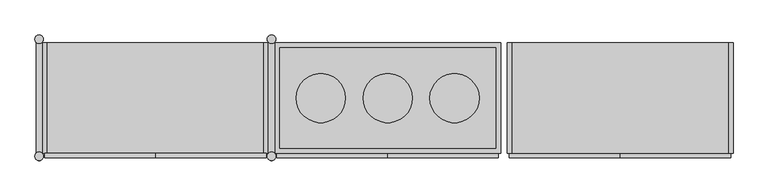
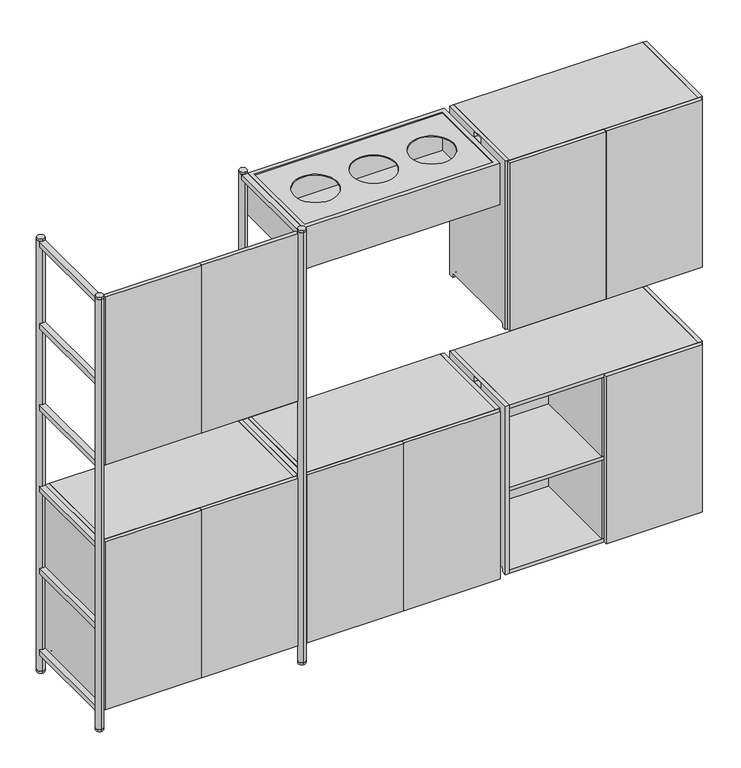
"""IFC4 building model written with IfcOpenShell, lengths in millimetres: furniture geometry, MAKR_TEMPLATE_900mmL1 : MAKR_TEMPLATE_900mmL 2."""

from ifc_helpers import new_model, si_unit, point, frame, frame_2d, origin, origin_with_axes, place, context, project, spatial, polyline, circle_curve, trimmed, segment, composite_curve, outline, extrude, source, transform, mapped, element, save
from ifc_brep_helpers import plane_surface, revolved_surface, advanced_brep


def furniture_e74ab299(model_context):
    return source(origin(), model_context, "Body", "SolidModel", [
        extrude(outline(polyline([(-2291.0, -221.4782814), (-1851.0, -221.4782814), (-1851.0, -239.4782814), (-2291.0, -239.4782814), (-2291.0, -221.4782814)])), frame((0.0, 0.0, 1276.0), z_axis=(0.0, 0.0, 1.0), x_axis=(1.0, 0.0, 0.0)), (0.0, 0.0, 1.0), 811.0),
        extrude(outline(polyline([(-1409.0, -221.4782814), (-1409.0, -239.4782814), (-1849.0, -239.4782814), (-1849.0, -221.4782814), (-1409.0, -221.4782814)])), frame((0.0, 0.0, 1276.0), z_axis=(0.0, 0.0, 1.0), x_axis=(1.0, 0.0, 0.0)), (0.0, 0.0, 1.0), 811.0),
        extrude(outline(composite_curve([segment(polyline([(-221.4782814, 904.0), (218.5217186, 904.0), (218.5217186, 89.0), (196.5217186, 89.0), (196.5217186, 106.0)]), True, "CONTINUOUS"), segment(trimmed(circle_curve(frame_2d((192.5217186, 106.0)), 4.0), [point((196.5217186, 106.0))], [point((192.5217186, 110.0))], True, "CARTESIAN"), True, "CONTINUOUS"), segment(polyline([(192.5217186, 110.0), (-195.4782814, 110.0)]), True, "CONTINUOUS"), segment(trimmed(circle_curve(frame_2d((-195.4782814, 106.0)), 4.0), [point((-195.4782814, 110.0))], [point((-199.4782814, 106.0))], True, "CARTESIAN"), True, "CONTINUOUS"), segment(polyline([(-199.4782814, 106.0), (-199.4782814, 89.0), (-221.4782814, 89.0), (-221.4782814, 904.0)]), True, "CONTINUOUS")], self_intersect=False), holes=[polyline([(-27.4782814, 899.0), (-27.4782814, 874.0), (24.5217186, 874.0), (24.5217186, 899.0), (-27.4782814, 899.0)])]), frame((-2300.0, 0.0, 0.0), z_axis=(1.0, 0.0, 0.0), x_axis=(0.0, 1.0, 0.0)), (0.0, 0.0, 1.0), 18.0),
        advanced_brep(
        [(-1418.0, 218.5217186, 107.0), (-2282.0, 218.5217186, 107.0), (-2282.0, 196.394702, 107.0), (-2276.1019215, 196.394702, 107.0), (-2276.1019215, -199.3512647, 107.0), (-2282.0, -199.3512647, 107.0), (-2282.0, -221.4782814, 107.0), (-1418.0, -221.4782814, 107.0), (-1418.0, 218.5217186, 89.0), (-1418.0, -221.4782814, 89.0), (-2282.0, -221.4782814, 89.0), (-2282.0, -199.4782814, 89.0), (-2276.1019215, -199.4782814, 89.0), (-2276.1019215, 196.5217186, 89.0), (-2282.0, 196.5217186, 89.0), (-2282.0, 218.5217186, 89.0), (-2282.0, 196.5217186, 106.0), (-2282.0, -199.4782814, 106.0), (-2276.1019215, 196.5217186, 106.0), (-2276.1019215, -199.4782814, 106.0)],
        [
            (0, 1),
            (1, 2),
            (2, 3),
            (3, 4),
            (4, 5),
            (5, 6),
            (6, 7),
            (7, 0),
            (8, 9),
            (9, 10),
            (10, 11),
            (11, 12),
            (12, 13),
            (13, 14),
            (14, 15),
            (15, 8),
            (0, 8),
            (15, 1),
            (14, 16),
            (16, 2, circle_curve(frame((-2282.0, 192.5217186, 106.0), z_axis=(1.0, 0.0, 0.0), x_axis=(0.0, 1.0, 0.0)), 4.0)),
            (10, 6),
            (5, 17, circle_curve(frame((-2282.0, -195.4782814, 106.0), z_axis=(1.0, 0.0, 0.0), x_axis=(0.0, 1.0, 0.0)), 4.0)),
            (17, 11),
            (9, 7),
            (18, 13),
            (12, 19),
            (19, 4, circle_curve(frame((-2276.1019215, -195.4782814, 106.0), z_axis=(-1.0, 0.0, 0.0), x_axis=(0.0, 1.0, 0.0)), 4.0)),
            (3, 18, circle_curve(frame((-2276.1019215, 192.5217186, 106.0), z_axis=(-1.0, 0.0, 0.0), x_axis=(0.0, 1.0, 0.0)), 4.0)),
            (19, 17),
            (18, 16),
        ],
        [
            plane_surface(frame((-2282.0, 218.5217186, 107.0), z_axis=(0.0, 0.0, 1.0), x_axis=(-1.0, 0.0, 0.0))),
            plane_surface(frame((-2282.0, 218.5217186, 89.0), z_axis=(0.0, 0.0, -1.0), x_axis=(1.0, 0.0, 0.0))),
            plane_surface(frame((-1418.0, 218.5217186, 107.0), z_axis=(0.0, 1.0, 0.0), x_axis=(0.0, 0.0, -1.0))),
            plane_surface(frame((-2282.0, 218.5217186, 107.0), z_axis=(-1.0, 0.0, 0.0), x_axis=(0.0, 0.0, -1.0))),
            plane_surface(frame((-2282.0, -221.4782814, 107.0), z_axis=(0.0, -1.0, 0.0), x_axis=(0.0, 0.0, -1.0))),
            plane_surface(frame((-1418.0, -221.4782814, 107.0), z_axis=(1.0, 0.0, 0.0), x_axis=(0.0, 0.0, -1.0))),
            plane_surface(frame((-2276.1019215, -191.4782814, 106.0), z_axis=(-1.0, 0.0, 0.0), x_axis=(0.0, 0.0, 1.0))),
            revolved_surface(polyline([(-2276.1019215, -191.4782814, 106.0), (-2282.0, -191.4782814, 106.0)]), (-2306.0458228, -195.4782814, 106.0), (1.0, 0.0, 0.0)),
            plane_surface(frame((-2276.1019215, -199.4782814, 106.0), z_axis=(0.0, 1.0, 0.0), x_axis=(-1.0, 0.0, 0.0))),
            plane_surface(frame((-2276.1019215, 196.5217186, 89.0), z_axis=(0.0, -1.0, 0.0), x_axis=(-1.0, 0.0, 0.0))),
            revolved_surface(polyline([(-2276.1019215, 196.5217186, 106.0), (-2282.0, 196.5217186, 106.0)]), (-2306.0458228, 192.5217186, 106.0), (1.0, 0.0, 0.0)),
        ],
        [
            (0, [[1, 2, 3, 4, 5, 6, 7, 8]]),
            (1, [[9, 10, 11, 12, 13, 14, 15, 16]]),
            (2, [[-1, 17, -16, 18]]),
            (3, [[-18, -15, 19, 20, -2]]),
            (3, [[21, -6, 22, 23, -11]]),
            (4, [[-7, -21, -10, 24]]),
            (5, [[-8, -24, -9, -17]]),
            (6, [[25, -13, 26, 27, -4, 28]]),
            (7, [[-27, 29, -22, -5]]),
            (8, [[-26, -12, -23, -29]]),
            (9, [[-25, 30, -19, -14]]),
            (10, [[-28, -3, -20, -30]]),
        ],
    ),
        extrude(outline(composite_curve([segment(polyline([(-221.4782814, 904.0), (218.5217186, 904.0), (218.5217186, 89.0), (196.5217186, 89.0), (196.5217186, 106.0)]), True, "CONTINUOUS"), segment(trimmed(circle_curve(frame_2d((192.5217186, 106.0)), 4.0), [point((196.5217186, 106.0))], [point((192.5217186, 110.0))], True, "CARTESIAN"), True, "CONTINUOUS"), segment(polyline([(192.5217186, 110.0), (-195.4782814, 110.0)]), True, "CONTINUOUS"), segment(trimmed(circle_curve(frame_2d((-195.4782814, 106.0)), 4.0), [point((-195.4782814, 110.0))], [point((-199.4782814, 106.0))], True, "CARTESIAN"), True, "CONTINUOUS"), segment(polyline([(-199.4782814, 106.0), (-199.4782814, 89.0), (-221.4782814, 89.0), (-221.4782814, 904.0)]), True, "CONTINUOUS")], self_intersect=False), holes=[polyline([(-27.4782814, 899.0), (-27.4782814, 874.0), (24.5217186, 874.0), (24.5217186, 899.0), (-27.4782814, 899.0)])]), frame((-1418.0, 0.0, 0.0), z_axis=(1.0, 0.0, 0.0), x_axis=(0.0, 1.0, 0.0)), (0.0, 0.0, 1.0), 18.0),
        extrude(outline(polyline([(-1418.0, 218.5217186), (-1418.0, 200.5217186), (-2282.0, 200.5217186), (-2282.0, 218.5217186), (-1418.0, 218.5217186)])), frame((0.0, 0.0, 107.0), z_axis=(0.0, 0.0, 1.0), x_axis=(1.0, 0.0, 0.0)), (0.0, 0.0, 1.0), 779.0),
        extrude(outline(polyline([(-1418.0, 200.5217186), (-1418.0, -221.4782814), (-2282.0, -221.4782814), (-2282.0, 200.5217186), (-1418.0, 200.5217186)])), frame((0.0, 0.0, 487.5), z_axis=(0.0, 0.0, 1.0), x_axis=(1.0, 0.0, 0.0)), (0.0, 0.0, 1.0), 18.0),
        extrude(outline(polyline([(-1418.0, 218.5217186), (-1418.0, -221.4782814), (-2282.0, -221.4782814), (-2282.0, 218.5217186), (-1418.0, 218.5217186)])), frame((0.0, 0.0, 886.0), z_axis=(0.0, 0.0, 1.0), x_axis=(1.0, 0.0, 0.0)), (0.0, 0.0, 1.0), 18.0),
        extrude(outline(polyline([(-1841.0, 200.5217186), (-1841.0, -221.4782814), (-1859.0, -221.4782814), (-1859.0, 200.5217186), (-1841.0, 200.5217186)])), frame((0.0, 0.0, 107.0), z_axis=(0.0, 0.0, 1.0), x_axis=(1.0, 0.0, 0.0)), (0.0, 0.0, 1.0), 779.0),
        extrude(outline(polyline([(-1409.0, -221.4782814), (-1409.0, -239.4782814), (-1849.0, -239.4782814), (-1849.0, -221.4782814), (-1409.0, -221.4782814)])), frame((0.0, 0.0, 91.0), z_axis=(0.0, 0.0, 1.0), x_axis=(1.0, 0.0, 0.0)), (0.0, 0.0, 1.0), 811.0),
        extrude(outline(polyline([(-2291.0, -221.4782814), (-1851.0, -221.4782814), (-1851.0, -239.4782814), (-2291.0, -239.4782814), (-2291.0, -221.4782814)])), frame((0.0, 0.0, 91.0), z_axis=(0.0, 0.0, 1.0), x_axis=(1.0, 0.0, 0.0)), (0.0, 0.0, 1.0), 811.0),
        extrude(outline(composite_curve([segment(polyline([(-221.4782814, 904.0), (218.5217186, 904.0), (218.5217186, 89.0), (196.5217186, 89.0), (196.5217186, 106.0)]), True, "CONTINUOUS"), segment(trimmed(circle_curve(frame_2d((192.5217186, 106.0)), 4.0), [point((196.5217186, 106.0))], [point((192.5217186, 110.0))], True, "CARTESIAN"), True, "CONTINUOUS"), segment(polyline([(192.5217186, 110.0), (-195.4782814, 110.0)]), True, "CONTINUOUS"), segment(trimmed(circle_curve(frame_2d((-195.4782814, 106.0)), 4.0), [point((-195.4782814, 110.0))], [point((-199.4782814, 106.0))], True, "CARTESIAN"), True, "CONTINUOUS"), segment(polyline([(-199.4782814, 106.0), (-199.4782814, 89.0), (-221.4782814, 89.0), (-221.4782814, 904.0)]), True, "CONTINUOUS")], self_intersect=False), holes=[polyline([(-27.4782814, 899.0), (-27.4782814, 874.0), (24.5217186, 874.0), (24.5217186, 899.0), (-27.4782814, 899.0)])]), frame((-1375.0, 0.0, 0.0), z_axis=(1.0, 0.0, 0.0), x_axis=(0.0, 1.0, 0.0)), (0.0, 0.0, 1.0), 18.0),
        advanced_brep(
        [(-493.0, 218.5217186, 107.0), (-1357.0, 218.5217186, 107.0), (-1357.0, 196.394702, 107.0), (-1351.1019215, 196.394702, 107.0), (-1351.1019215, -199.3512647, 107.0), (-1357.0, -199.3512647, 107.0), (-1357.0, -221.4782814, 107.0), (-493.0, -221.4782814, 107.0), (-493.0, 218.5217186, 89.0), (-493.0, -221.4782814, 89.0), (-1357.0, -221.4782814, 89.0), (-1357.0, -199.4782814, 89.0), (-1351.1019215, -199.4782814, 89.0), (-1351.1019215, 196.5217186, 89.0), (-1357.0, 196.5217186, 89.0), (-1357.0, 218.5217186, 89.0), (-1357.0, 196.5217186, 106.0), (-1357.0, -199.4782814, 106.0), (-1351.1019215, 196.5217186, 106.0), (-1351.1019215, -199.4782814, 106.0)],
        [
            (0, 1),
            (1, 2),
            (2, 3),
            (3, 4),
            (4, 5),
            (5, 6),
            (6, 7),
            (7, 0),
            (8, 9),
            (9, 10),
            (10, 11),
            (11, 12),
            (12, 13),
            (13, 14),
            (14, 15),
            (15, 8),
            (0, 8),
            (15, 1),
            (14, 16),
            (16, 2, circle_curve(frame((-1357.0, 192.5217186, 106.0), z_axis=(1.0, 0.0, 0.0), x_axis=(0.0, 1.0, 0.0)), 4.0)),
            (10, 6),
            (5, 17, circle_curve(frame((-1357.0, -195.4782814, 106.0), z_axis=(1.0, 0.0, 0.0), x_axis=(0.0, 1.0, 0.0)), 4.0)),
            (17, 11),
            (9, 7),
            (18, 13),
            (12, 19),
            (19, 4, circle_curve(frame((-1351.1019215, -195.4782814, 106.0), z_axis=(-1.0, 0.0, 0.0), x_axis=(0.0, 1.0, 0.0)), 4.0)),
            (3, 18, circle_curve(frame((-1351.1019215, 192.5217186, 106.0), z_axis=(-1.0, 0.0, 0.0), x_axis=(0.0, 1.0, 0.0)), 4.0)),
            (19, 17),
            (18, 16),
        ],
        [
            plane_surface(frame((-1357.0, 218.5217186, 107.0), z_axis=(0.0, 0.0, 1.0), x_axis=(-1.0, 0.0, 0.0))),
            plane_surface(frame((-1357.0, 218.5217186, 89.0), z_axis=(0.0, 0.0, -1.0), x_axis=(1.0, 0.0, 0.0))),
            plane_surface(frame((-493.0, 218.5217186, 107.0), z_axis=(0.0, 1.0, 0.0), x_axis=(0.0, 0.0, -1.0))),
            plane_surface(frame((-1357.0, 218.5217186, 107.0), z_axis=(-1.0, 0.0, 0.0), x_axis=(0.0, 0.0, -1.0))),
            plane_surface(frame((-1357.0, -221.4782814, 107.0), z_axis=(0.0, -1.0, 0.0), x_axis=(0.0, 0.0, -1.0))),
            plane_surface(frame((-493.0, -221.4782814, 107.0), z_axis=(1.0, 0.0, 0.0), x_axis=(0.0, 0.0, -1.0))),
            plane_surface(frame((-1351.1019215, -191.4782814, 106.0), z_axis=(-1.0, 0.0, 0.0), x_axis=(0.0, 0.0, 1.0))),
            revolved_surface(polyline([(-1351.1019215, -191.4782814, 106.0), (-1357.0, -191.4782814, 106.0)]), (-1381.0458228, -195.4782814, 106.0), (1.0, 0.0, 0.0)),
            plane_surface(frame((-1351.1019215, -199.4782814, 106.0), z_axis=(0.0, 1.0, 0.0), x_axis=(-1.0, 0.0, 0.0))),
            plane_surface(frame((-1351.1019215, 196.5217186, 89.0), z_axis=(0.0, -1.0, 0.0), x_axis=(-1.0, 0.0, 0.0))),
            revolved_surface(polyline([(-1351.1019215, 196.5217186, 106.0), (-1357.0, 196.5217186, 106.0)]), (-1381.0458228, 192.5217186, 106.0), (1.0, 0.0, 0.0)),
        ],
        [
            (0, [[1, 2, 3, 4, 5, 6, 7, 8]]),
            (1, [[9, 10, 11, 12, 13, 14, 15, 16]]),
            (2, [[-1, 17, -16, 18]]),
            (3, [[-18, -15, 19, 20, -2]]),
            (3, [[21, -6, 22, 23, -11]]),
            (4, [[-7, -21, -10, 24]]),
            (5, [[-8, -24, -9, -17]]),
            (6, [[25, -13, 26, 27, -4, 28]]),
            (7, [[-27, 29, -22, -5]]),
            (8, [[-26, -12, -23, -29]]),
            (9, [[-25, 30, -19, -14]]),
            (10, [[-28, -3, -20, -30]]),
        ],
    ),
        extrude(outline(composite_curve([segment(polyline([(-221.4782814, 904.0), (218.5217186, 904.0), (218.5217186, 89.0), (196.5217186, 89.0), (196.5217186, 106.0)]), True, "CONTINUOUS"), segment(trimmed(circle_curve(frame_2d((192.5217186, 106.0)), 4.0), [point((196.5217186, 106.0))], [point((192.5217186, 110.0))], True, "CARTESIAN"), True, "CONTINUOUS"), segment(polyline([(192.5217186, 110.0), (-195.4782814, 110.0)]), True, "CONTINUOUS"), segment(trimmed(circle_curve(frame_2d((-195.4782814, 106.0)), 4.0), [point((-195.4782814, 110.0))], [point((-199.4782814, 106.0))], True, "CARTESIAN"), True, "CONTINUOUS"), segment(polyline([(-199.4782814, 106.0), (-199.4782814, 89.0), (-221.4782814, 89.0), (-221.4782814, 904.0)]), True, "CONTINUOUS")], self_intersect=False), holes=[polyline([(-27.4782814, 899.0), (-27.4782814, 874.0), (24.5217186, 874.0), (24.5217186, 899.0), (-27.4782814, 899.0)])]), frame((-493.0, 0.0, 0.0), z_axis=(1.0, 0.0, 0.0), x_axis=(0.0, 1.0, 0.0)), (0.0, 0.0, 1.0), 18.0),
        extrude(outline(polyline([(-493.0, 218.5217186), (-493.0, 200.5217186), (-1357.0, 200.5217186), (-1357.0, 218.5217186), (-493.0, 218.5217186)])), frame((0.0, 0.0, 107.0), z_axis=(0.0, 0.0, 1.0), x_axis=(1.0, 0.0, 0.0)), (0.0, 0.0, 1.0), 779.0),
        extrude(outline(polyline([(-493.0, 200.5217186), (-493.0, -221.4782814), (-1357.0, -221.4782814), (-1357.0, 200.5217186), (-493.0, 200.5217186)])), frame((0.0, 0.0, 487.5), z_axis=(0.0, 0.0, 1.0), x_axis=(1.0, 0.0, 0.0)), (0.0, 0.0, 1.0), 18.0),
        extrude(outline(polyline([(-493.0, 218.5217186), (-493.0, -221.4782814), (-1357.0, -221.4782814), (-1357.0, 218.5217186), (-493.0, 218.5217186)])), frame((0.0, 0.0, 886.0), z_axis=(0.0, 0.0, 1.0), x_axis=(1.0, 0.0, 0.0)), (0.0, 0.0, 1.0), 18.0),
        extrude(outline(polyline([(-916.0, 200.5217186), (-916.0, -221.4782814), (-934.0, -221.4782814), (-934.0, 200.5217186), (-916.0, 200.5217186)])), frame((0.0, 0.0, 107.0), z_axis=(0.0, 0.0, 1.0), x_axis=(1.0, 0.0, 0.0)), (0.0, 0.0, 1.0), 779.0),
        extrude(outline(polyline([(-484.0, -221.4782814), (-484.0, -239.4782814), (-924.0, -239.4782814), (-924.0, -221.4782814), (-484.0, -221.4782814)])), frame((0.0, 0.0, 91.0), z_axis=(0.0, 0.0, 1.0), x_axis=(1.0, 0.0, 0.0)), (0.0, 0.0, 1.0), 811.0),
        extrude(outline(polyline([(-1366.0, -221.4782814), (-926.0, -221.4782814), (-926.0, -239.4782814), (-1366.0, -239.4782814), (-1366.0, -221.4782814)])), frame((0.0, 0.0, 91.0), z_axis=(0.0, 0.0, 1.0), x_axis=(1.0, 0.0, 0.0)), (0.0, 0.0, 1.0), 811.0),
        extrude(outline(composite_curve([segment(trimmed(circle_curve(frame_2d((-2312.5, 233.0)), 17.0), [point((-2325.0, 221.4782814))], [point((-2300.0, 221.4782814))], True, "CARTESIAN"), True, "CONTINUOUS"), segment(polyline([(-2300.0, 221.4782814), (-2300.0, -221.4782814)]), True, "CONTINUOUS"), segment(trimmed(circle_curve(frame_2d((-2312.5, -233.0)), 17.0), [point((-2300.0, -221.4782814))], [point((-2325.0, -221.4782814))], True, "CARTESIAN"), True, "CONTINUOUS"), segment(polyline([(-2325.0, -221.4782814), (-2325.0, 221.4782814)]), True, "CONTINUOUS")], self_intersect=False)), frame((0.0, 0.0, 2064.0), z_axis=(0.0, 0.0, 1.0), x_axis=(1.0, 0.0, 0.0)), (0.0, 0.0, 1.0), 25.0),
        extrude(outline(composite_curve([segment(trimmed(circle_curve(frame_2d((-2312.5, 233.0)), 17.0), [point((-2325.0, 221.4782814))], [point((-2300.0, 221.4782814))], True, "CARTESIAN"), True, "CONTINUOUS"), segment(polyline([(-2300.0, 221.4782814), (-2300.0, -221.4782814)]), True, "CONTINUOUS"), segment(trimmed(circle_curve(frame_2d((-2312.5, -233.0)), 17.0), [point((-2300.0, -221.4782814))], [point((-2325.0, -221.4782814))], True, "CARTESIAN"), True, "CONTINUOUS"), segment(polyline([(-2325.0, -221.4782814), (-2325.0, 221.4782814)]), True, "CONTINUOUS")], self_intersect=False)), frame((0.0, 0.0, 1669.0), z_axis=(0.0, 0.0, 1.0), x_axis=(1.0, 0.0, 0.0)), (0.0, 0.0, 1.0), 25.0),
        extrude(outline(composite_curve([segment(trimmed(circle_curve(frame_2d((-2312.5, 233.0)), 17.0), [point((-2325.0, 221.4782814))], [point((-2300.0, 221.4782814))], True, "CARTESIAN"), True, "CONTINUOUS"), segment(polyline([(-2300.0, 221.4782814), (-2300.0, -221.4782814)]), True, "CONTINUOUS"), segment(trimmed(circle_curve(frame_2d((-2312.5, -233.0)), 17.0), [point((-2300.0, -221.4782814))], [point((-2325.0, -221.4782814))], True, "CARTESIAN"), True, "CONTINUOUS"), segment(polyline([(-2325.0, -221.4782814), (-2325.0, 221.4782814)]), True, "CONTINUOUS")], self_intersect=False)), frame((0.0, 0.0, 1274.0), z_axis=(0.0, 0.0, 1.0), x_axis=(1.0, 0.0, 0.0)), (0.0, 0.0, 1.0), 25.0),
        extrude(outline(composite_curve([segment(trimmed(circle_curve(frame_2d((-2312.5, 233.0)), 17.0), [point((-2325.0, 221.4782814))], [point((-2300.0, 221.4782814))], True, "CARTESIAN"), True, "CONTINUOUS"), segment(polyline([(-2300.0, 221.4782814), (-2300.0, -221.4782814)]), True, "CONTINUOUS"), segment(trimmed(circle_curve(frame_2d((-2312.5, -233.0)), 17.0), [point((-2300.0, -221.4782814))], [point((-2325.0, -221.4782814))], True, "CARTESIAN"), True, "CONTINUOUS"), segment(polyline([(-2325.0, -221.4782814), (-2325.0, 221.4782814)]), True, "CONTINUOUS")], self_intersect=False)), frame((0.0, 0.0, 879.0), z_axis=(0.0, 0.0, 1.0), x_axis=(1.0, 0.0, 0.0)), (0.0, 0.0, 1.0), 25.0),
        extrude(outline(composite_curve([segment(trimmed(circle_curve(frame_2d((-2312.5, 233.0)), 17.0), [point((-2325.0, 221.4782814))], [point((-2300.0, 221.4782814))], True, "CARTESIAN"), True, "CONTINUOUS"), segment(polyline([(-2300.0, 221.4782814), (-2300.0, -221.4782814)]), True, "CONTINUOUS"), segment(trimmed(circle_curve(frame_2d((-2312.5, -233.0)), 17.0), [point((-2300.0, -221.4782814))], [point((-2325.0, -221.4782814))], True, "CARTESIAN"), True, "CONTINUOUS"), segment(polyline([(-2325.0, -221.4782814), (-2325.0, 221.4782814)]), True, "CONTINUOUS")], self_intersect=False)), frame((0.0, 0.0, 484.0), z_axis=(0.0, 0.0, 1.0), x_axis=(1.0, 0.0, 0.0)), (0.0, 0.0, 1.0), 25.0),
        extrude(outline(composite_curve([segment(trimmed(circle_curve(frame_2d((-2312.5, 233.0)), 17.0), [point((-2325.0, 221.4782814))], [point((-2300.0, 221.4782814))], True, "CARTESIAN"), True, "CONTINUOUS"), segment(polyline([(-2300.0, 221.4782814), (-2300.0, -221.4782814)]), True, "CONTINUOUS"), segment(trimmed(circle_curve(frame_2d((-2312.5, -233.0)), 17.0), [point((-2300.0, -221.4782814))], [point((-2325.0, -221.4782814))], True, "CARTESIAN"), True, "CONTINUOUS"), segment(polyline([(-2325.0, -221.4782814), (-2325.0, 221.4782814)]), True, "CONTINUOUS")], self_intersect=False)), frame((0.0, 0.0, 89.0), z_axis=(0.0, 0.0, 1.0), x_axis=(1.0, 0.0, 0.0)), (0.0, 0.0, 1.0), 25.0),
        extrude(outline(composite_curve([segment(trimmed(circle_curve(frame_2d((-2312.5, -233.0)), 17.0), [point((-2312.5, -216.0))], [point((-2312.5, -250.0))], False, "CARTESIAN"), True, "CONTINUOUS"), segment(trimmed(circle_curve(frame_2d((-2312.5, -233.0)), 17.0), [point((-2312.5, -250.0))], [point((-2312.5, -216.0))], False, "CARTESIAN"), True, "CONTINUOUS")], self_intersect=False)), frame((0.0, 0.0, 2091.0), z_axis=(0.0, 0.0, 1.0), x_axis=(1.0, 0.0, 0.0)), (0.0, 0.0, 1.0), 9.0),
        extrude(outline(composite_curve([segment(trimmed(circle_curve(frame_2d((-2312.5, -233.0)), 17.0), [point((-2312.5, -216.0))], [point((-2312.5, -250.0))], False, "CARTESIAN"), True, "CONTINUOUS"), segment(trimmed(circle_curve(frame_2d((-2312.5, -233.0)), 17.0), [point((-2312.5, -250.0))], [point((-2312.5, -216.0))], False, "CARTESIAN"), True, "CONTINUOUS")], self_intersect=False)), origin_with_axes(), (0.0, 0.0, 1.0), 9.0),
        extrude(outline(composite_curve([segment(trimmed(circle_curve(frame_2d((-2312.5, -233.0)), 17.0), [point((-2312.5, -216.0))], [point((-2312.5, -250.0))], False, "CARTESIAN"), True, "CONTINUOUS"), segment(trimmed(circle_curve(frame_2d((-2312.5, -233.0)), 17.0), [point((-2312.5, -250.0))], [point((-2312.5, -216.0))], False, "CARTESIAN"), True, "CONTINUOUS")], self_intersect=False)), frame((0.0, 0.0, 9.0), z_axis=(0.0, 0.0, 1.0), x_axis=(1.0, 0.0, 0.0)), (0.0, 0.0, 1.0), 2082.0),
        extrude(outline(composite_curve([segment(trimmed(circle_curve(frame_2d((-2312.5, 233.0)), 17.0), [point((-2312.5, 216.0))], [point((-2312.5, 250.0))], False, "CARTESIAN"), True, "CONTINUOUS"), segment(trimmed(circle_curve(frame_2d((-2312.5, 233.0)), 17.0), [point((-2312.5, 250.0))], [point((-2312.5, 216.0))], False, "CARTESIAN"), True, "CONTINUOUS")], self_intersect=False)), frame((0.0, 0.0, 2091.0), z_axis=(0.0, 0.0, 1.0), x_axis=(1.0, 0.0, 0.0)), (0.0, 0.0, 1.0), 9.0),
        extrude(outline(composite_curve([segment(trimmed(circle_curve(frame_2d((-2312.5, 233.0)), 17.0), [point((-2312.5, 216.0))], [point((-2312.5, 250.0))], False, "CARTESIAN"), True, "CONTINUOUS"), segment(trimmed(circle_curve(frame_2d((-2312.5, 233.0)), 17.0), [point((-2312.5, 250.0))], [point((-2312.5, 216.0))], False, "CARTESIAN"), True, "CONTINUOUS")], self_intersect=False)), origin_with_axes(), (0.0, 0.0, 1.0), 9.0),
        extrude(outline(composite_curve([segment(trimmed(circle_curve(frame_2d((-2312.5, 233.0)), 17.0), [point((-2312.5, 216.0))], [point((-2312.5, 250.0))], False, "CARTESIAN"), True, "CONTINUOUS"), segment(trimmed(circle_curve(frame_2d((-2312.5, 233.0)), 17.0), [point((-2312.5, 250.0))], [point((-2312.5, 216.0))], False, "CARTESIAN"), True, "CONTINUOUS")], self_intersect=False)), frame((0.0, 0.0, 9.0), z_axis=(0.0, 0.0, 1.0), x_axis=(1.0, 0.0, 0.0)), (0.0, 0.0, 1.0), 2082.0),
        extrude(outline(composite_curve([segment(trimmed(circle_curve(frame_2d((-1387.5, 233.0)), 17.0), [point((-1400.0, 221.4782814))], [point((-1375.0, 221.4782814))], True, "CARTESIAN"), True, "CONTINUOUS"), segment(polyline([(-1375.0, 221.4782814), (-1375.0, -221.4782814)]), True, "CONTINUOUS"), segment(trimmed(circle_curve(frame_2d((-1387.5, -233.0)), 17.0), [point((-1375.0, -221.4782814))], [point((-1400.0, -221.4782814))], True, "CARTESIAN"), True, "CONTINUOUS"), segment(polyline([(-1400.0, -221.4782814), (-1400.0, 221.4782814)]), True, "CONTINUOUS")], self_intersect=False)), frame((0.0, 0.0, 2064.0), z_axis=(0.0, 0.0, 1.0), x_axis=(1.0, 0.0, 0.0)), (0.0, 0.0, 1.0), 25.0),
        extrude(outline(composite_curve([segment(trimmed(circle_curve(frame_2d((-1387.5, 233.0)), 17.0), [point((-1400.0, 221.4782814))], [point((-1375.0, 221.4782814))], True, "CARTESIAN"), True, "CONTINUOUS"), segment(polyline([(-1375.0, 221.4782814), (-1375.0, -221.4782814)]), True, "CONTINUOUS"), segment(trimmed(circle_curve(frame_2d((-1387.5, -233.0)), 17.0), [point((-1375.0, -221.4782814))], [point((-1400.0, -221.4782814))], True, "CARTESIAN"), True, "CONTINUOUS"), segment(polyline([(-1400.0, -221.4782814), (-1400.0, 221.4782814)]), True, "CONTINUOUS")], self_intersect=False)), frame((0.0, 0.0, 1669.0), z_axis=(0.0, 0.0, 1.0), x_axis=(1.0, 0.0, 0.0)), (0.0, 0.0, 1.0), 25.0),
        extrude(outline(composite_curve([segment(trimmed(circle_curve(frame_2d((-1387.5, 233.0)), 17.0), [point((-1400.0, 221.4782814))], [point((-1375.0, 221.4782814))], True, "CARTESIAN"), True, "CONTINUOUS"), segment(polyline([(-1375.0, 221.4782814), (-1375.0, -221.4782814)]), True, "CONTINUOUS"), segment(trimmed(circle_curve(frame_2d((-1387.5, -233.0)), 17.0), [point((-1375.0, -221.4782814))], [point((-1400.0, -221.4782814))], True, "CARTESIAN"), True, "CONTINUOUS"), segment(polyline([(-1400.0, -221.4782814), (-1400.0, 221.4782814)]), True, "CONTINUOUS")], self_intersect=False)), frame((0.0, 0.0, 1274.0), z_axis=(0.0, 0.0, 1.0), x_axis=(1.0, 0.0, 0.0)), (0.0, 0.0, 1.0), 25.0),
        extrude(outline(composite_curve([segment(trimmed(circle_curve(frame_2d((-1387.5, 233.0)), 17.0), [point((-1400.0, 221.4782814))], [point((-1375.0, 221.4782814))], True, "CARTESIAN"), True, "CONTINUOUS"), segment(polyline([(-1375.0, 221.4782814), (-1375.0, -221.4782814)]), True, "CONTINUOUS"), segment(trimmed(circle_curve(frame_2d((-1387.5, -233.0)), 17.0), [point((-1375.0, -221.4782814))], [point((-1400.0, -221.4782814))], True, "CARTESIAN"), True, "CONTINUOUS"), segment(polyline([(-1400.0, -221.4782814), (-1400.0, 221.4782814)]), True, "CONTINUOUS")], self_intersect=False)), frame((0.0, 0.0, 879.0), z_axis=(0.0, 0.0, 1.0), x_axis=(1.0, 0.0, 0.0)), (0.0, 0.0, 1.0), 25.0),
        extrude(outline(composite_curve([segment(trimmed(circle_curve(frame_2d((-1387.5, 233.0)), 17.0), [point((-1400.0, 221.4782814))], [point((-1375.0, 221.4782814))], True, "CARTESIAN"), True, "CONTINUOUS"), segment(polyline([(-1375.0, 221.4782814), (-1375.0, -221.4782814)]), True, "CONTINUOUS"), segment(trimmed(circle_curve(frame_2d((-1387.5, -233.0)), 17.0), [point((-1375.0, -221.4782814))], [point((-1400.0, -221.4782814))], True, "CARTESIAN"), True, "CONTINUOUS"), segment(polyline([(-1400.0, -221.4782814), (-1400.0, 221.4782814)]), True, "CONTINUOUS")], self_intersect=False)), frame((0.0, 0.0, 484.0), z_axis=(0.0, 0.0, 1.0), x_axis=(1.0, 0.0, 0.0)), (0.0, 0.0, 1.0), 25.0),
        extrude(outline(composite_curve([segment(trimmed(circle_curve(frame_2d((-1387.5, 233.0)), 17.0), [point((-1400.0, 221.4782814))], [point((-1375.0, 221.4782814))], True, "CARTESIAN"), True, "CONTINUOUS"), segment(polyline([(-1375.0, 221.4782814), (-1375.0, -221.4782814)]), True, "CONTINUOUS"), segment(trimmed(circle_curve(frame_2d((-1387.5, -233.0)), 17.0), [point((-1375.0, -221.4782814))], [point((-1400.0, -221.4782814))], True, "CARTESIAN"), True, "CONTINUOUS"), segment(polyline([(-1400.0, -221.4782814), (-1400.0, 221.4782814)]), True, "CONTINUOUS")], self_intersect=False)), frame((0.0, 0.0, 89.0), z_axis=(0.0, 0.0, 1.0), x_axis=(1.0, 0.0, 0.0)), (0.0, 0.0, 1.0), 25.0),
        extrude(outline(composite_curve([segment(trimmed(circle_curve(frame_2d((-1387.5, -233.0)), 17.0), [point((-1387.5, -216.0))], [point((-1387.5, -250.0))], False, "CARTESIAN"), True, "CONTINUOUS"), segment(trimmed(circle_curve(frame_2d((-1387.5, -233.0)), 17.0), [point((-1387.5, -250.0))], [point((-1387.5, -216.0))], False, "CARTESIAN"), True, "CONTINUOUS")], self_intersect=False)), frame((0.0, 0.0, 2091.0), z_axis=(0.0, 0.0, 1.0), x_axis=(1.0, 0.0, 0.0)), (0.0, 0.0, 1.0), 9.0),
        extrude(outline(composite_curve([segment(trimmed(circle_curve(frame_2d((-1387.5, -233.0)), 17.0), [point((-1387.5, -216.0))], [point((-1387.5, -250.0))], False, "CARTESIAN"), True, "CONTINUOUS"), segment(trimmed(circle_curve(frame_2d((-1387.5, -233.0)), 17.0), [point((-1387.5, -250.0))], [point((-1387.5, -216.0))], False, "CARTESIAN"), True, "CONTINUOUS")], self_intersect=False)), origin_with_axes(), (0.0, 0.0, 1.0), 9.0),
        extrude(outline(composite_curve([segment(trimmed(circle_curve(frame_2d((-1387.5, -233.0)), 17.0), [point((-1387.5, -216.0))], [point((-1387.5, -250.0))], False, "CARTESIAN"), True, "CONTINUOUS"), segment(trimmed(circle_curve(frame_2d((-1387.5, -233.0)), 17.0), [point((-1387.5, -250.0))], [point((-1387.5, -216.0))], False, "CARTESIAN"), True, "CONTINUOUS")], self_intersect=False)), frame((0.0, 0.0, 9.0), z_axis=(0.0, 0.0, 1.0), x_axis=(1.0, 0.0, 0.0)), (0.0, 0.0, 1.0), 2082.0),
        extrude(outline(composite_curve([segment(trimmed(circle_curve(frame_2d((-1387.5, 233.0)), 17.0), [point((-1387.5, 216.0))], [point((-1387.5, 250.0))], False, "CARTESIAN"), True, "CONTINUOUS"), segment(trimmed(circle_curve(frame_2d((-1387.5, 233.0)), 17.0), [point((-1387.5, 250.0))], [point((-1387.5, 216.0))], False, "CARTESIAN"), True, "CONTINUOUS")], self_intersect=False)), frame((0.0, 0.0, 2091.0), z_axis=(0.0, 0.0, 1.0), x_axis=(1.0, 0.0, 0.0)), (0.0, 0.0, 1.0), 9.0),
        extrude(outline(composite_curve([segment(trimmed(circle_curve(frame_2d((-1387.5, 233.0)), 17.0), [point((-1387.5, 216.0))], [point((-1387.5, 250.0))], False, "CARTESIAN"), True, "CONTINUOUS"), segment(trimmed(circle_curve(frame_2d((-1387.5, 233.0)), 17.0), [point((-1387.5, 250.0))], [point((-1387.5, 216.0))], False, "CARTESIAN"), True, "CONTINUOUS")], self_intersect=False)), origin_with_axes(), (0.0, 0.0, 1.0), 9.0),
        extrude(outline(composite_curve([segment(trimmed(circle_curve(frame_2d((-1387.5, 233.0)), 17.0), [point((-1387.5, 216.0))], [point((-1387.5, 250.0))], False, "CARTESIAN"), True, "CONTINUOUS"), segment(trimmed(circle_curve(frame_2d((-1387.5, 233.0)), 17.0), [point((-1387.5, 250.0))], [point((-1387.5, 216.0))], False, "CARTESIAN"), True, "CONTINUOUS")], self_intersect=False)), frame((0.0, 0.0, 9.0), z_axis=(0.0, 0.0, 1.0), x_axis=(1.0, 0.0, 0.0)), (0.0, 0.0, 1.0), 2082.0),
        extrude(outline(polyline([(-1375.0, 218.5217186), (-475.0, 218.5217186), (-475.0, -221.4782814), (-1375.0, -221.4782814), (-1375.0, 218.5217186)]), holes=[polyline([(-495.0, 198.5217186), (-1355.0, 198.5217186), (-1355.0, -201.4782814), (-495.0, -201.4782814), (-495.0, 198.5217186)])]), frame((0.0, 0.0, 1889.0), z_axis=(0.0, 0.0, 1.0), x_axis=(1.0, 0.0, 0.0)), (0.0, 0.0, 1.0), 200.0),
        extrude(outline(polyline([(-1355.0, 198.5217186), (-495.0, 198.5217186), (-495.0, -201.4782814), (-1355.0, -201.4782814), (-1355.0, 198.5217186)])), frame((0.0, 0.0, 1889.0), z_axis=(0.0, 0.0, 1.0), x_axis=(1.0, 0.0, 0.0)), (0.0, 0.0, 1.0), 15.0),
        extrude(outline(polyline([(-1355.0, 198.5217186), (-495.0, 198.5217186), (-495.0, -201.4782814), (-1355.0, -201.4782814), (-1355.0, 198.5217186)]), holes=[composite_curve([segment(trimmed(circle_curve(frame_2d((-925.0, -1.4782814)), 98.0), [point((-827.0, -1.4782814))], [point((-1023.0, -1.4782814))], True, "CARTESIAN"), True, "CONTINUOUS"), segment(trimmed(circle_curve(frame_2d((-925.0, -1.4782814)), 98.0), [point((-1023.0, -1.4782814))], [point((-827.0, -1.4782814))], True, "CARTESIAN"), True, "CONTINUOUS")], self_intersect=False), composite_curve([segment(trimmed(circle_curve(frame_2d((-1191.0, -1.4782814)), 98.0), [point((-1093.0, -1.4782814))], [point((-1289.0, -1.4782814))], True, "CARTESIAN"), True, "CONTINUOUS"), segment(trimmed(circle_curve(frame_2d((-1191.0, -1.4782814)), 98.0), [point((-1289.0, -1.4782814))], [point((-1093.0, -1.4782814))], True, "CARTESIAN"), True, "CONTINUOUS")], self_intersect=False), composite_curve([segment(trimmed(circle_curve(frame_2d((-659.0, -1.4782814)), 98.0), [point((-561.0, -1.4782814))], [point((-757.0, -1.4782814))], True, "CARTESIAN"), True, "CONTINUOUS"), segment(trimmed(circle_curve(frame_2d((-659.0, -1.4782814)), 98.0), [point((-757.0, -1.4782814))], [point((-561.0, -1.4782814))], True, "CARTESIAN"), True, "CONTINUOUS")], self_intersect=False)]), frame((0.0, 0.0, 2080.4363245), z_axis=(0.0, 0.0, 1.0), x_axis=(1.0, 0.0, 0.0)), (0.0, 0.0, 1.0), 3.5636755),
        extrude(outline(composite_curve([segment(polyline([(-221.4782814, 2089.0), (218.5217186, 2089.0), (218.5217186, 1274.0), (196.5217186, 1274.0), (196.5217186, 1291.0)]), True, "CONTINUOUS"), segment(trimmed(circle_curve(frame_2d((192.5217186, 1291.0)), 4.0), [point((196.5217186, 1291.0))], [point((192.5217186, 1295.0))], True, "CARTESIAN"), True, "CONTINUOUS"), segment(polyline([(192.5217186, 1295.0), (-195.4782814, 1295.0)]), True, "CONTINUOUS"), segment(trimmed(circle_curve(frame_2d((-195.4782814, 1291.0)), 4.0), [point((-195.4782814, 1295.0))], [point((-199.4782814, 1291.0))], True, "CARTESIAN"), True, "CONTINUOUS"), segment(polyline([(-199.4782814, 1291.0), (-199.4782814, 1274.0), (-221.4782814, 1274.0), (-221.4782814, 2089.0)]), True, "CONTINUOUS")], self_intersect=False), holes=[polyline([(-27.4782814, 2084.0), (-27.4782814, 2059.0), (24.5217186, 2059.0), (24.5217186, 2084.0), (-27.4782814, 2084.0)])]), frame((-450.0, 0.0, 0.0), z_axis=(1.0, 0.0, 0.0), x_axis=(0.0, 1.0, 0.0)), (0.0, 0.0, 1.0), 18.0),
        advanced_brep(
        [(432.0, 218.5217186, 1292.0), (-432.0, 218.5217186, 1292.0), (-432.0, 196.394702, 1292.0), (-426.1019215, 196.394702, 1292.0), (-426.1019215, -199.3512647, 1292.0), (-432.0, -199.3512647, 1292.0), (-432.0, -221.4782814, 1292.0), (432.0, -221.4782814, 1292.0), (432.0, 218.5217186, 1274.0), (432.0, -221.4782814, 1274.0), (-432.0, -221.4782814, 1274.0), (-432.0, -199.4782814, 1274.0), (-426.1019215, -199.4782814, 1274.0), (-426.1019215, 196.5217186, 1274.0), (-432.0, 196.5217186, 1274.0), (-432.0, 218.5217186, 1274.0), (-432.0, 196.5217186, 1291.0), (-432.0, -199.4782814, 1291.0), (-426.1019215, 196.5217186, 1291.0), (-426.1019215, -199.4782814, 1291.0)],
        [
            (0, 1),
            (1, 2),
            (2, 3),
            (3, 4),
            (4, 5),
            (5, 6),
            (6, 7),
            (7, 0),
            (8, 9),
            (9, 10),
            (10, 11),
            (11, 12),
            (12, 13),
            (13, 14),
            (14, 15),
            (15, 8),
            (0, 8),
            (15, 1),
            (14, 16),
            (16, 2, circle_curve(frame((-432.0, 192.5217186, 1291.0), z_axis=(1.0, 0.0, 0.0), x_axis=(0.0, 1.0, 0.0)), 4.0)),
            (10, 6),
            (5, 17, circle_curve(frame((-432.0, -195.4782814, 1291.0), z_axis=(1.0, 0.0, 0.0), x_axis=(0.0, 1.0, 0.0)), 4.0)),
            (17, 11),
            (9, 7),
            (18, 13),
            (12, 19),
            (19, 4, circle_curve(frame((-426.1019215, -195.4782814, 1291.0), z_axis=(-1.0, 0.0, 0.0), x_axis=(0.0, 1.0, 0.0)), 4.0)),
            (3, 18, circle_curve(frame((-426.1019215, 192.5217186, 1291.0), z_axis=(-1.0, 0.0, 0.0), x_axis=(0.0, 1.0, 0.0)), 4.0)),
            (19, 17),
            (18, 16),
        ],
        [
            plane_surface(frame((-432.0, 218.5217186, 1292.0), z_axis=(0.0, 0.0, 1.0), x_axis=(-1.0, 0.0, 0.0))),
            plane_surface(frame((-432.0, 218.5217186, 1274.0), z_axis=(0.0, 0.0, -1.0), x_axis=(1.0, 0.0, 0.0))),
            plane_surface(frame((432.0, 218.5217186, 1292.0), z_axis=(0.0, 1.0, 0.0), x_axis=(0.0, 0.0, -1.0))),
            plane_surface(frame((-432.0, 218.5217186, 1292.0), z_axis=(-1.0, 0.0, 0.0), x_axis=(0.0, 0.0, -1.0))),
            plane_surface(frame((-432.0, -221.4782814, 1292.0), z_axis=(0.0, -1.0, 0.0), x_axis=(0.0, 0.0, -1.0))),
            plane_surface(frame((432.0, -221.4782814, 1292.0), z_axis=(1.0, 0.0, 0.0), x_axis=(0.0, 0.0, -1.0))),
            plane_surface(frame((-426.1019215, -191.4782814, 1291.0), z_axis=(-1.0, 0.0, 0.0), x_axis=(0.0, 0.0, 1.0))),
            revolved_surface(polyline([(-426.1019215, -191.4782814, 1291.0), (-432.0, -191.4782814, 1291.0)]), (-456.0458228, -195.4782814, 1291.0), (1.0, 0.0, 0.0)),
            plane_surface(frame((-426.1019215, -199.4782814, 1291.0), z_axis=(0.0, 1.0, 0.0), x_axis=(-1.0, 0.0, 0.0))),
            plane_surface(frame((-426.1019215, 196.5217186, 1274.0), z_axis=(0.0, -1.0, 0.0), x_axis=(-1.0, 0.0, 0.0))),
            revolved_surface(polyline([(-426.1019215, 196.5217186, 1291.0), (-432.0, 196.5217186, 1291.0)]), (-456.0458228, 192.5217186, 1291.0), (1.0, 0.0, 0.0)),
        ],
        [
            (0, [[1, 2, 3, 4, 5, 6, 7, 8]]),
            (1, [[9, 10, 11, 12, 13, 14, 15, 16]]),
            (2, [[-1, 17, -16, 18]]),
            (3, [[-18, -15, 19, 20, -2]]),
            (3, [[21, -6, 22, 23, -11]]),
            (4, [[-7, -21, -10, 24]]),
            (5, [[-8, -24, -9, -17]]),
            (6, [[25, -13, 26, 27, -4, 28]]),
            (7, [[-27, 29, -22, -5]]),
            (8, [[-26, -12, -23, -29]]),
            (9, [[-25, 30, -19, -14]]),
            (10, [[-28, -3, -20, -30]]),
        ],
    ),
        extrude(outline(composite_curve([segment(polyline([(-221.4782814, 2089.0), (218.5217186, 2089.0), (218.5217186, 1274.0), (196.5217186, 1274.0), (196.5217186, 1291.0)]), True, "CONTINUOUS"), segment(trimmed(circle_curve(frame_2d((192.5217186, 1291.0)), 4.0), [point((196.5217186, 1291.0))], [point((192.5217186, 1295.0))], True, "CARTESIAN"), True, "CONTINUOUS"), segment(polyline([(192.5217186, 1295.0), (-195.4782814, 1295.0)]), True, "CONTINUOUS"), segment(trimmed(circle_curve(frame_2d((-195.4782814, 1291.0)), 4.0), [point((-195.4782814, 1295.0))], [point((-199.4782814, 1291.0))], True, "CARTESIAN"), True, "CONTINUOUS"), segment(polyline([(-199.4782814, 1291.0), (-199.4782814, 1274.0), (-221.4782814, 1274.0), (-221.4782814, 2089.0)]), True, "CONTINUOUS")], self_intersect=False), holes=[polyline([(-27.4782814, 2084.0), (-27.4782814, 2059.0), (24.5217186, 2059.0), (24.5217186, 2084.0), (-27.4782814, 2084.0)])]), frame((432.0, 0.0, 0.0), z_axis=(1.0, 0.0, 0.0), x_axis=(0.0, 1.0, 0.0)), (0.0, 0.0, 1.0), 18.0),
        extrude(outline(polyline([(432.0, 218.5217186), (432.0, 200.5217186), (-432.0, 200.5217186), (-432.0, 218.5217186), (432.0, 218.5217186)])), frame((0.0, 0.0, 1292.0), z_axis=(0.0, 0.0, 1.0), x_axis=(1.0, 0.0, 0.0)), (0.0, 0.0, 1.0), 779.0),
        extrude(outline(polyline([(432.0, 200.5217186), (432.0, -221.4782814), (-432.0, -221.4782814), (-432.0, 200.5217186), (432.0, 200.5217186)])), frame((0.0, 0.0, 1672.5), z_axis=(0.0, 0.0, 1.0), x_axis=(1.0, 0.0, 0.0)), (0.0, 0.0, 1.0), 18.0),
        extrude(outline(polyline([(432.0, 218.5217186), (432.0, -221.4782814), (-432.0, -221.4782814), (-432.0, 218.5217186), (432.0, 218.5217186)])), frame((0.0, 0.0, 2071.0), z_axis=(0.0, 0.0, 1.0), x_axis=(1.0, 0.0, 0.0)), (0.0, 0.0, 1.0), 18.0),
        extrude(outline(polyline([(9.0, 200.5217186), (9.0, -221.4782814), (-9.0, -221.4782814), (-9.0, 200.5217186), (9.0, 200.5217186)])), frame((0.0, 0.0, 1292.0), z_axis=(0.0, 0.0, 1.0), x_axis=(1.0, 0.0, 0.0)), (0.0, 0.0, 1.0), 779.0),
        extrude(outline(polyline([(441.0, -221.4782814), (441.0, -239.4782814), (1.0, -239.4782814), (1.0, -221.4782814), (441.0, -221.4782814)])), frame((0.0, 0.0, 1276.0), z_axis=(0.0, 0.0, 1.0), x_axis=(1.0, 0.0, 0.0)), (0.0, 0.0, 1.0), 811.0),
        extrude(outline(polyline([(-441.0, -221.4782814), (-1.0, -221.4782814), (-1.0, -239.4782814), (-441.0, -239.4782814), (-441.0, -221.4782814)])), frame((0.0, 0.0, 1276.0), z_axis=(0.0, 0.0, 1.0), x_axis=(1.0, 0.0, 0.0)), (0.0, 0.0, 1.0), 811.0),
        extrude(outline(composite_curve([segment(polyline([(-221.4782814, 904.0), (218.5217186, 904.0), (218.5217186, 89.0), (196.5217186, 89.0), (196.5217186, 106.0)]), True, "CONTINUOUS"), segment(trimmed(circle_curve(frame_2d((192.5217186, 106.0)), 4.0), [point((196.5217186, 106.0))], [point((192.5217186, 110.0))], True, "CARTESIAN"), True, "CONTINUOUS"), segment(polyline([(192.5217186, 110.0), (-195.4782814, 110.0)]), True, "CONTINUOUS"), segment(trimmed(circle_curve(frame_2d((-195.4782814, 106.0)), 4.0), [point((-195.4782814, 110.0))], [point((-199.4782814, 106.0))], True, "CARTESIAN"), True, "CONTINUOUS"), segment(polyline([(-199.4782814, 106.0), (-199.4782814, 89.0), (-221.4782814, 89.0), (-221.4782814, 904.0)]), True, "CONTINUOUS")], self_intersect=False), holes=[polyline([(-27.4782814, 899.0), (-27.4782814, 874.0), (24.5217186, 874.0), (24.5217186, 899.0), (-27.4782814, 899.0)])]), frame((-450.0, 0.0, 0.0), z_axis=(1.0, 0.0, 0.0), x_axis=(0.0, 1.0, 0.0)), (0.0, 0.0, 1.0), 18.0),
        advanced_brep(
        [(432.0, 218.5217186, 107.0), (-432.0, 218.5217186, 107.0), (-432.0, 196.394702, 107.0), (-426.1019215, 196.394702, 107.0), (-426.1019215, -199.3512647, 107.0), (-432.0, -199.3512647, 107.0), (-432.0, -221.4782814, 107.0), (432.0, -221.4782814, 107.0), (432.0, 218.5217186, 89.0), (432.0, -221.4782814, 89.0), (-432.0, -221.4782814, 89.0), (-432.0, -199.4782814, 89.0), (-426.1019215, -199.4782814, 89.0), (-426.1019215, 196.5217186, 89.0), (-432.0, 196.5217186, 89.0), (-432.0, 218.5217186, 89.0), (-432.0, 196.5217186, 106.0), (-432.0, -199.4782814, 106.0), (-426.1019215, 196.5217186, 106.0), (-426.1019215, -199.4782814, 106.0)],
        [
            (0, 1),
            (1, 2),
            (2, 3),
            (3, 4),
            (4, 5),
            (5, 6),
            (6, 7),
            (7, 0),
            (8, 9),
            (9, 10),
            (10, 11),
            (11, 12),
            (12, 13),
            (13, 14),
            (14, 15),
            (15, 8),
            (0, 8),
            (15, 1),
            (14, 16),
            (16, 2, circle_curve(frame((-432.0, 192.5217186, 106.0), z_axis=(1.0, 0.0, 0.0), x_axis=(0.0, 1.0, 0.0)), 4.0)),
            (10, 6),
            (5, 17, circle_curve(frame((-432.0, -195.4782814, 106.0), z_axis=(1.0, 0.0, 0.0), x_axis=(0.0, 1.0, 0.0)), 4.0)),
            (17, 11),
            (9, 7),
            (18, 13),
            (12, 19),
            (19, 4, circle_curve(frame((-426.1019215, -195.4782814, 106.0), z_axis=(-1.0, 0.0, 0.0), x_axis=(0.0, 1.0, 0.0)), 4.0)),
            (3, 18, circle_curve(frame((-426.1019215, 192.5217186, 106.0), z_axis=(-1.0, 0.0, 0.0), x_axis=(0.0, 1.0, 0.0)), 4.0)),
            (19, 17),
            (18, 16),
        ],
        [
            plane_surface(frame((-432.0, 218.5217186, 107.0), z_axis=(0.0, 0.0, 1.0), x_axis=(-1.0, 0.0, 0.0))),
            plane_surface(frame((-432.0, 218.5217186, 89.0), z_axis=(0.0, 0.0, -1.0), x_axis=(1.0, 0.0, 0.0))),
            plane_surface(frame((432.0, 218.5217186, 107.0), z_axis=(0.0, 1.0, 0.0), x_axis=(0.0, 0.0, -1.0))),
            plane_surface(frame((-432.0, 218.5217186, 107.0), z_axis=(-1.0, 0.0, 0.0), x_axis=(0.0, 0.0, -1.0))),
            plane_surface(frame((-432.0, -221.4782814, 107.0), z_axis=(0.0, -1.0, 0.0), x_axis=(0.0, 0.0, -1.0))),
            plane_surface(frame((432.0, -221.4782814, 107.0), z_axis=(1.0, 0.0, 0.0), x_axis=(0.0, 0.0, -1.0))),
            plane_surface(frame((-426.1019215, -191.4782814, 106.0), z_axis=(-1.0, 0.0, 0.0), x_axis=(0.0, 0.0, 1.0))),
            revolved_surface(polyline([(-426.1019215, -191.4782814, 106.0), (-432.0, -191.4782814, 106.0)]), (-456.0458228, -195.4782814, 106.0), (1.0, 0.0, 0.0)),
            plane_surface(frame((-426.1019215, -199.4782814, 106.0), z_axis=(0.0, 1.0, 0.0), x_axis=(-1.0, 0.0, 0.0))),
            plane_surface(frame((-426.1019215, 196.5217186, 89.0), z_axis=(0.0, -1.0, 0.0), x_axis=(-1.0, 0.0, 0.0))),
            revolved_surface(polyline([(-426.1019215, 196.5217186, 106.0), (-432.0, 196.5217186, 106.0)]), (-456.0458228, 192.5217186, 106.0), (1.0, 0.0, 0.0)),
        ],
        [
            (0, [[1, 2, 3, 4, 5, 6, 7, 8]]),
            (1, [[9, 10, 11, 12, 13, 14, 15, 16]]),
            (2, [[-1, 17, -16, 18]]),
            (3, [[-18, -15, 19, 20, -2]]),
            (3, [[21, -6, 22, 23, -11]]),
            (4, [[-7, -21, -10, 24]]),
            (5, [[-8, -24, -9, -17]]),
            (6, [[25, -13, 26, 27, -4, 28]]),
            (7, [[-27, 29, -22, -5]]),
            (8, [[-26, -12, -23, -29]]),
            (9, [[-25, 30, -19, -14]]),
            (10, [[-28, -3, -20, -30]]),
        ],
    ),
        extrude(outline(composite_curve([segment(polyline([(-221.4782814, 904.0), (218.5217186, 904.0), (218.5217186, 89.0), (196.5217186, 89.0), (196.5217186, 106.0)]), True, "CONTINUOUS"), segment(trimmed(circle_curve(frame_2d((192.5217186, 106.0)), 4.0), [point((196.5217186, 106.0))], [point((192.5217186, 110.0))], True, "CARTESIAN"), True, "CONTINUOUS"), segment(polyline([(192.5217186, 110.0), (-195.4782814, 110.0)]), True, "CONTINUOUS"), segment(trimmed(circle_curve(frame_2d((-195.4782814, 106.0)), 4.0), [point((-195.4782814, 110.0))], [point((-199.4782814, 106.0))], True, "CARTESIAN"), True, "CONTINUOUS"), segment(polyline([(-199.4782814, 106.0), (-199.4782814, 89.0), (-221.4782814, 89.0), (-221.4782814, 904.0)]), True, "CONTINUOUS")], self_intersect=False), holes=[polyline([(-27.4782814, 899.0), (-27.4782814, 874.0), (24.5217186, 874.0), (24.5217186, 899.0), (-27.4782814, 899.0)])]), frame((432.0, 0.0, 0.0), z_axis=(1.0, 0.0, 0.0), x_axis=(0.0, 1.0, 0.0)), (0.0, 0.0, 1.0), 18.0),
        extrude(outline(polyline([(432.0, 218.5217186), (432.0, 200.5217186), (-432.0, 200.5217186), (-432.0, 218.5217186), (432.0, 218.5217186)])), frame((0.0, 0.0, 107.0), z_axis=(0.0, 0.0, 1.0), x_axis=(1.0, 0.0, 0.0)), (0.0, 0.0, 1.0), 779.0),
        extrude(outline(polyline([(432.0, 200.5217186), (432.0, -221.4782814), (-432.0, -221.4782814), (-432.0, 200.5217186), (432.0, 200.5217186)])), frame((0.0, 0.0, 487.5), z_axis=(0.0, 0.0, 1.0), x_axis=(1.0, 0.0, 0.0)), (0.0, 0.0, 1.0), 18.0),
        extrude(outline(polyline([(432.0, 218.5217186), (432.0, -221.4782814), (-432.0, -221.4782814), (-432.0, 218.5217186), (432.0, 218.5217186)])), frame((0.0, 0.0, 886.0), z_axis=(0.0, 0.0, 1.0), x_axis=(1.0, 0.0, 0.0)), (0.0, 0.0, 1.0), 18.0),
        extrude(outline(polyline([(9.0, 200.5217186), (9.0, -221.4782814), (-9.0, -221.4782814), (-9.0, 200.5217186), (9.0, 200.5217186)])), frame((0.0, 0.0, 107.0), z_axis=(0.0, 0.0, 1.0), x_axis=(1.0, 0.0, 0.0)), (0.0, 0.0, 1.0), 779.0),
        extrude(outline(polyline([(441.0, -221.4782814), (441.0, -239.4782814), (1.0, -239.4782814), (1.0, -221.4782814), (441.0, -221.4782814)])), frame((0.0, 0.0, 91.0), z_axis=(0.0, 0.0, 1.0), x_axis=(1.0, 0.0, 0.0)), (0.0, 0.0, 1.0), 811.0),
    ])


if __name__ == "__main__":
    model = new_model("IFC4")
    model_context = context("Model", 3, world=origin())
    ifc_project = project(units=[si_unit("LENGTHUNIT", "METRE", prefix="MILLI")], contexts=[model_context])
    site = spatial("IfcSite", under=ifc_project)
    building = spatial("IfcBuilding", under=site)
    placement = place(None, origin())
    furniture_shape = furniture_e74ab299(model_context)
    element("IfcFurniture", 1, ObjectType="MAKR_TEMPLATE_900mmL1 : MAKR_TEMPLATE_900mmL 2", at=placement, inside=building, context=model_context, shape_type="MappedRepresentation", body=[
        mapped(furniture_shape, transform((0.0, 0.0, 0.0), x_axis=(1.0, 0.0, 0.0), y_axis=(0.0, 1.0, 0.0), z_axis=(0.0, 0.0, 1.0))),
    ])
    save(model, "model.ifc")
